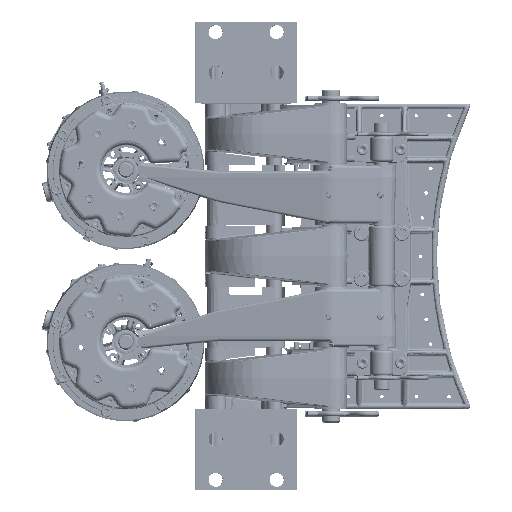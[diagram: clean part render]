
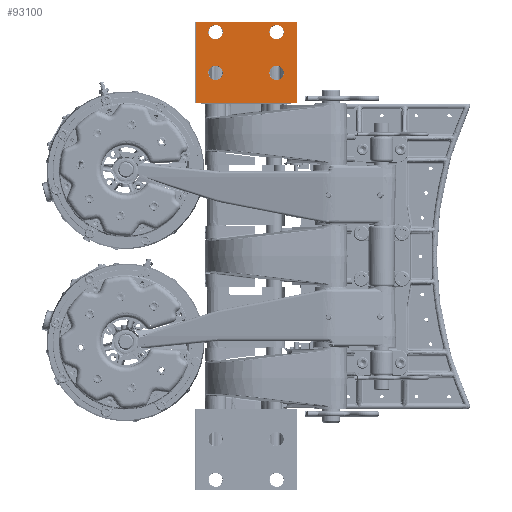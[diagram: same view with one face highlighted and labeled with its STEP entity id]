
A CAD part, top view. The second image highlights one B-rep face of the part: STEP entity #93100.
In plain terms, the highlighted planar face has unit normal (0, 0, 1).
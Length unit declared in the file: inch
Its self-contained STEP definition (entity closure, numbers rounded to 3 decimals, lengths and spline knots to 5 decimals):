
#4360 = EDGE_CURVE ( 'NONE', #85339, #119510, #279479, .T. ) ;
#10044 = ORIENTED_EDGE ( 'NONE', *, *, #30460, .T. ) ;
#12639 = DIRECTION ( 'NONE',  ( 0., 0., -1. ) ) ;
#14981 = DIRECTION ( 'NONE',  ( -1., 0., 0. ) ) ;
#15532 = VERTEX_POINT ( 'NONE', #45790 ) ;
#18860 = CARTESIAN_POINT ( 'NONE',  ( -5.09074, 11.5, 7.5 ) ) ;
#20335 = CARTESIAN_POINT ( 'NONE',  ( -1.44449, 11., 7.5 ) ) ;
#24932 = CARTESIAN_POINT ( 'NONE',  ( -4.09074, 11., 7.5 ) ) ;
#27004 = CIRCLE ( 'NONE', #109596, 0.35375 ) ;
#30076 = CIRCLE ( 'NONE', #296447, 0.35375 ) ;
#30460 = EDGE_CURVE ( 'NONE', #15532, #40581, #247677, .T. ) ;
#31136 = CARTESIAN_POINT ( 'NONE',  ( -3.73699, 9., 7.5 ) ) ;
#33349 = DIRECTION ( 'NONE',  ( -1., 0., 0. ) ) ;
#35856 = EDGE_LOOP ( 'NONE', ( #10044, #308283 ) ) ;
#36512 = AXIS2_PLACEMENT_3D ( 'NONE', #294338, #213548, #202347 ) ;
#40581 = VERTEX_POINT ( 'NONE', #31136 ) ;
#41062 = CARTESIAN_POINT ( 'NONE',  ( -1.09074, 11., 7.5 ) ) ;
#43433 = DIRECTION ( 'NONE',  ( -1., 0., 0. ) ) ;
#45790 = CARTESIAN_POINT ( 'NONE',  ( -4.44449, 9., 7.5 ) ) ;
#46748 = EDGE_CURVE ( 'NONE', #94719, #305210, #72671, .T. ) ;
#52995 = LINE ( 'NONE', #115414, #117976 ) ;
#53023 = EDGE_CURVE ( 'NONE', #226394, #312230, #30076, .T. ) ;
#61109 = AXIS2_PLACEMENT_3D ( 'NONE', #244088, #97872, #268658 ) ;
#64392 = EDGE_CURVE ( 'NONE', #305210, #94719, #213975, .T. ) ;
#65747 = DIRECTION ( 'NONE',  ( -1., 0., 0. ) ) ;
#67053 = PLANE ( 'NONE',  #177354 ) ;
#70158 = VERTEX_POINT ( 'NONE', #276916 ) ;
#71896 = FACE_OUTER_BOUND ( 'NONE', #166186, .T. ) ;
#72671 = CIRCLE ( 'NONE', #36512, 0.35375 ) ;
#73468 = DIRECTION ( 'NONE',  ( -1., 0., 0. ) ) ;
#79961 = CARTESIAN_POINT ( 'NONE',  ( -5.09074, 7.5, 7.5 ) ) ;
#81121 = AXIS2_PLACEMENT_3D ( 'NONE', #151772, #92632, #305764 ) ;
#82021 = DIRECTION ( 'NONE',  ( 1., 0., 0. ) ) ;
#85339 = VERTEX_POINT ( 'NONE', #151917 ) ;
#92260 = EDGE_CURVE ( 'NONE', #312230, #226394, #27004, .T. ) ;
#92632 = DIRECTION ( 'NONE',  ( 0., 0., -1. ) ) ;
#93100 = ADVANCED_FACE ( 'NONE', ( #217161, #266718, #201910, #136946, #71896 ), #67053, .F. ) ;
#94719 = VERTEX_POINT ( 'NONE', #245002 ) ;
#97194 = AXIS2_PLACEMENT_3D ( 'NONE', #307361, #161189, #14981 ) ;
#97872 = DIRECTION ( 'NONE',  ( 0., 0., -1. ) ) ;
#98275 = CARTESIAN_POINT ( 'NONE',  ( -0.73699, 9., 7.5 ) ) ;
#100165 = VECTOR ( 'NONE', #33349, 39.37008 ) ;
#104780 = DIRECTION ( 'NONE',  ( 0., -1., 0. ) ) ;
#105019 = CARTESIAN_POINT ( 'NONE',  ( -5.09074, 11.48, 7.5 ) ) ;
#106479 = AXIS2_PLACEMENT_3D ( 'NONE', #24932, #131799, #195614 ) ;
#109596 = AXIS2_PLACEMENT_3D ( 'NONE', #41062, #211976, #65747 ) ;
#114387 = EDGE_LOOP ( 'NONE', ( #173628, #136782 ) ) ;
#114526 = EDGE_LOOP ( 'NONE', ( #161797, #137754 ) ) ;
#115414 = CARTESIAN_POINT ( 'NONE',  ( -5.07074, 11.5, 7.5 ) ) ;
#117976 = VECTOR ( 'NONE', #104780, 39.37008 ) ;
#119510 = VERTEX_POINT ( 'NONE', #131814 ) ;
#127560 = CIRCLE ( 'NONE', #61109, 0.35375 ) ;
#129911 = CARTESIAN_POINT ( 'NONE',  ( -0.73699, 11., 7.5 ) ) ;
#131799 = DIRECTION ( 'NONE',  ( 0., 0., -1. ) ) ;
#131814 = CARTESIAN_POINT ( 'NONE',  ( -0.11074, 11.48, 7.5 ) ) ;
#136782 = ORIENTED_EDGE ( 'NONE', *, *, #53023, .T. ) ;
#136946 = FACE_BOUND ( 'NONE', #114387, .T. ) ;
#137754 = ORIENTED_EDGE ( 'NONE', *, *, #64392, .T. ) ;
#137893 = ORIENTED_EDGE ( 'NONE', *, *, #4360, .T. ) ;
#151772 = CARTESIAN_POINT ( 'NONE',  ( -4.09074, 9., 7.5 ) ) ;
#151917 = CARTESIAN_POINT ( 'NONE',  ( -0.11074, 7.5, 7.5 ) ) ;
#157257 = EDGE_CURVE ( 'NONE', #119510, #188639, #287201, .T. ) ;
#158842 = CARTESIAN_POINT ( 'NONE',  ( -4.09074, 9., 7.5 ) ) ;
#161189 = DIRECTION ( 'NONE',  ( 0., 0., -1. ) ) ;
#161797 = ORIENTED_EDGE ( 'NONE', *, *, #46748, .T. ) ;
#165107 = DIRECTION ( 'NONE',  ( 0., 1., 0. ) ) ;
#166186 = EDGE_LOOP ( 'NONE', ( #198023, #248583, #242404, #137893 ) ) ;
#171433 = EDGE_CURVE ( 'NONE', #239057, #85339, #287710, .T. ) ;
#173628 = ORIENTED_EDGE ( 'NONE', *, *, #92260, .T. ) ;
#177354 = AXIS2_PLACEMENT_3D ( 'NONE', #18860, #189781, #43433 ) ;
#178337 = EDGE_CURVE ( 'NONE', #188639, #239057, #52995, .T. ) ;
#179864 = EDGE_CURVE ( 'NONE', #70158, #215952, #196423, .T. ) ;
#183490 = DIRECTION ( 'NONE',  ( -1., 0., 0. ) ) ;
#188639 = VERTEX_POINT ( 'NONE', #239659 ) ;
#188869 = CARTESIAN_POINT ( 'NONE',  ( -1.09074, 11., 7.5 ) ) ;
#189781 = DIRECTION ( 'NONE',  ( 0., 0., -1. ) ) ;
#190272 = ORIENTED_EDGE ( 'NONE', *, *, #307736, .T. ) ;
#195614 = DIRECTION ( 'NONE',  ( -1., 0., 0. ) ) ;
#196423 = CIRCLE ( 'NONE', #97194, 0.35375 ) ;
#198023 = ORIENTED_EDGE ( 'NONE', *, *, #157257, .T. ) ;
#201910 = FACE_BOUND ( 'NONE', #223039, .T. ) ;
#202347 = DIRECTION ( 'NONE',  ( -1., 0., 0. ) ) ;
#207069 = CIRCLE ( 'NONE', #266975, 0.35375 ) ;
#211976 = DIRECTION ( 'NONE',  ( 0., 0., -1. ) ) ;
#213548 = DIRECTION ( 'NONE',  ( 0., 0., -1. ) ) ;
#213975 = CIRCLE ( 'NONE', #106479, 0.35375 ) ;
#214620 = VECTOR ( 'NONE', #165107, 39.37008 ) ;
#215952 = VERTEX_POINT ( 'NONE', #98275 ) ;
#217161 = FACE_BOUND ( 'NONE', #114526, .T. ) ;
#222258 = EDGE_CURVE ( 'NONE', #40581, #15532, #207069, .T. ) ;
#222939 = VECTOR ( 'NONE', #82021, 39.37008 ) ;
#223039 = EDGE_LOOP ( 'NONE', ( #270450, #190272 ) ) ;
#226394 = VERTEX_POINT ( 'NONE', #129911 ) ;
#234468 = CARTESIAN_POINT ( 'NONE',  ( -5.07074, 7.5, 7.5 ) ) ;
#239057 = VERTEX_POINT ( 'NONE', #234468 ) ;
#239659 = CARTESIAN_POINT ( 'NONE',  ( -5.07074, 11.48, 7.5 ) ) ;
#242404 = ORIENTED_EDGE ( 'NONE', *, *, #171433, .T. ) ;
#244088 = CARTESIAN_POINT ( 'NONE',  ( -1.09074, 9., 7.5 ) ) ;
#245002 = CARTESIAN_POINT ( 'NONE',  ( -4.44449, 11., 7.5 ) ) ;
#247677 = CIRCLE ( 'NONE', #81121, 0.35375 ) ;
#248583 = ORIENTED_EDGE ( 'NONE', *, *, #178337, .T. ) ;
#266718 = FACE_BOUND ( 'NONE', #35856, .T. ) ;
#266908 = DIRECTION ( 'NONE',  ( 0., 0., -1. ) ) ;
#266975 = AXIS2_PLACEMENT_3D ( 'NONE', #158842, #12639, #183490 ) ;
#268658 = DIRECTION ( 'NONE',  ( -1., 0., 0. ) ) ;
#270450 = ORIENTED_EDGE ( 'NONE', *, *, #179864, .T. ) ;
#273933 = CARTESIAN_POINT ( 'NONE',  ( -3.73699, 11., 7.5 ) ) ;
#274490 = CARTESIAN_POINT ( 'NONE',  ( -0.11074, 11.5, 7.5 ) ) ;
#276916 = CARTESIAN_POINT ( 'NONE',  ( -1.44449, 9., 7.5 ) ) ;
#279479 = LINE ( 'NONE', #274490, #214620 ) ;
#287201 = LINE ( 'NONE', #105019, #100165 ) ;
#287710 = LINE ( 'NONE', #79961, #222939 ) ;
#294338 = CARTESIAN_POINT ( 'NONE',  ( -4.09074, 11., 7.5 ) ) ;
#296447 = AXIS2_PLACEMENT_3D ( 'NONE', #188869, #266908, #73468 ) ;
#305210 = VERTEX_POINT ( 'NONE', #273933 ) ;
#305764 = DIRECTION ( 'NONE',  ( -1., 0., 0. ) ) ;
#307361 = CARTESIAN_POINT ( 'NONE',  ( -1.09074, 9., 7.5 ) ) ;
#307736 = EDGE_CURVE ( 'NONE', #215952, #70158, #127560, .T. ) ;
#308283 = ORIENTED_EDGE ( 'NONE', *, *, #222258, .T. ) ;
#312230 = VERTEX_POINT ( 'NONE', #20335 ) ;
